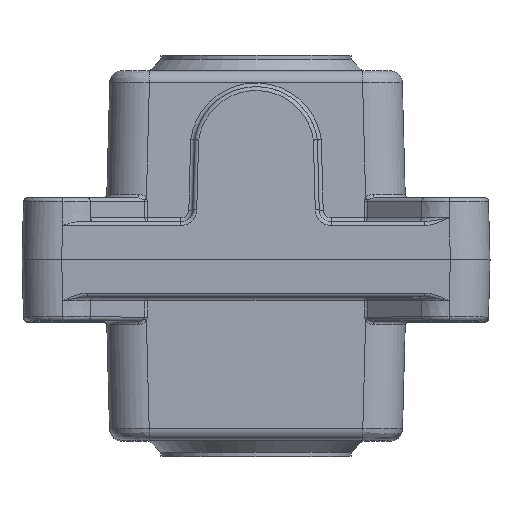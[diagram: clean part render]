
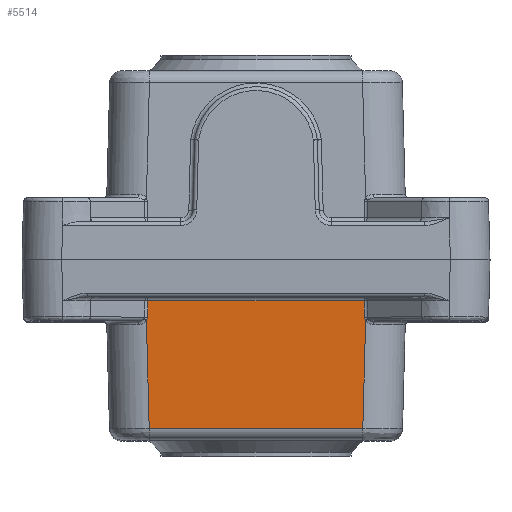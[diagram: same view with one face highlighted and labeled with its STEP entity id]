
A CAD part, top view. The second image highlights one B-rep face of the part: STEP entity #5514.
In plain terms, the highlighted planar face has unit normal (0, -0.026, 1) as drawn and (0, 0.026, 1) by its records, which use the part's own axes.
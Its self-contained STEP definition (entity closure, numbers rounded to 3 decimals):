
#5514=ADVANCED_FACE('',(#22547),#22549,.T.);
#22547=FACE_BOUND('',#22548,.T.);
#22548=EDGE_LOOP('',(#31424,#31425,#31426,#31427,#31428,#31429,#31430,#31431));
#22549=PLANE('',#22550);
#22550=AXIS2_PLACEMENT_3D('',#22551,#22552,#22553);
#22551=CARTESIAN_POINT('',(-27.676,9.5,84.768));
#22552=DIRECTION('',(0.,0.026,1.));
#22553=DIRECTION('',(1.,0.,0.));
#31424=ORIENTED_EDGE('',*,*,#33396,.T.);
#31425=ORIENTED_EDGE('',*,*,#33393,.T.);
#31426=ORIENTED_EDGE('',*,*,#33478,.F.);
#31427=ORIENTED_EDGE('',*,*,#33475,.T.);
#31428=ORIENTED_EDGE('',*,*,#33479,.F.);
#31429=ORIENTED_EDGE('',*,*,#33480,.F.);
#31430=ORIENTED_EDGE('',*,*,#33481,.F.);
#31431=ORIENTED_EDGE('',*,*,#33399,.F.);
#33393=EDGE_CURVE('',#35946,#35948,#35950,.T.);
#33396=EDGE_CURVE('',#35953,#35946,#35954,.T.);
#33399=EDGE_CURVE('',#35953,#35957,#35958,.T.);
#33475=EDGE_CURVE('',#36071,#36069,#36072,.T.);
#33478=EDGE_CURVE('',#36071,#35948,#36075,.T.);
#33479=EDGE_CURVE('',#36076,#36069,#36077,.T.);
#33480=EDGE_CURVE('',#36078,#36076,#36079,.T.);
#33481=EDGE_CURVE('',#35957,#36078,#36080,.T.);
#35946=VERTEX_POINT('',#58673);
#35948=VERTEX_POINT('',#58678);
#35950=LINE('',#58690,#58691);
#35953=VERTEX_POINT('',#58701);
#35954=LINE('',#58702,#58703);
#35957=VERTEX_POINT('',#58713);
#35958=LINE('',#58714,#58715);
#36069=VERTEX_POINT('',#59681);
#36071=VERTEX_POINT('',#59778);
#36072=LINE('',#59779,#59780);
#36075=B_SPLINE_CURVE_WITH_KNOTS('',3,
(#59851,#59852,#59853,#59854,#59855,#59856,#59857,#59858,#59859,#59860,#59861,#59862,
#59863,#59864,#59865,#59866),
.UNSPECIFIED.,.F.,.F.,
(4,2,2,2,2,2,2,4),
(0.,0.144,0.282,0.423,0.569,0.725,
0.902,1.),
.UNSPECIFIED.);
#36076=VERTEX_POINT('',#59867);
#36077=LINE('',#59868,#59869);
#36078=VERTEX_POINT('',#59871);
#36079=LINE('',#59872,#59873);
#36080=B_SPLINE_CURVE_WITH_KNOTS('',3,
(#59875,#59876,#59877,#59878,#59879,#59880,#59881,#59882,#59883,#59884,#59885,#59886,
#59887,#59888,#59889,#59890),
.UNSPECIFIED.,.F.,.F.,
(4,2,2,2,2,2,2,4),
(0.,0.121,0.299,0.479,0.668,0.831,
0.974,1.),
.UNSPECIFIED.);
#58673=CARTESIAN_POINT('',(27.273,10.474,84.743));
#58678=CARTESIAN_POINT('',(27.317,14.526,84.637));
#58690=CARTESIAN_POINT('',(27.273,10.474,84.743));
#58691=VECTOR('',#58692,1.);
#58692=DIRECTION('',(0.011,1.,-0.026));
#58701=CARTESIAN_POINT('',(-27.273,10.474,84.743));
#58702=CARTESIAN_POINT('',(-27.273,10.474,84.743));
#58703=VECTOR('',#58704,1.);
#58704=DIRECTION('',(1.,0.,0.));
#58713=CARTESIAN_POINT('',(-27.317,14.526,84.637));
#58714=CARTESIAN_POINT('',(-27.273,10.474,84.743));
#58715=VECTOR('',#58716,1.);
#58716=DIRECTION('',(-0.011,1.,-0.026));
#59681=CARTESIAN_POINT('',(26.906,42.579,83.902));
#59778=CARTESIAN_POINT('',(27.617,15.404,84.614));
#59779=CARTESIAN_POINT('',(27.617,15.404,84.614));
#59780=VECTOR('',#59781,1.);
#59781=DIRECTION('',(-0.026,0.999,-0.026));
#59851=CARTESIAN_POINT('',(27.617,15.404,84.614));
#59852=CARTESIAN_POINT('',(27.593,15.368,84.615));
#59853=CARTESIAN_POINT('',(27.568,15.333,84.616));
#59854=CARTESIAN_POINT('',(27.524,15.26,84.617));
#59855=CARTESIAN_POINT('',(27.503,15.224,84.618));
#59856=CARTESIAN_POINT('',(27.464,15.148,84.62));
#59857=CARTESIAN_POINT('',(27.446,15.109,84.621));
#59858=CARTESIAN_POINT('',(27.412,15.026,84.624));
#59859=CARTESIAN_POINT('',(27.396,14.982,84.625));
#59860=CARTESIAN_POINT('',(27.367,14.891,84.627));
#59861=CARTESIAN_POINT('',(27.355,14.842,84.628));
#59862=CARTESIAN_POINT('',(27.334,14.736,84.631));
#59863=CARTESIAN_POINT('',(27.325,14.68,84.633));
#59864=CARTESIAN_POINT('',(27.318,14.59,84.635));
#59865=CARTESIAN_POINT('',(27.318,14.558,84.636));
#59866=CARTESIAN_POINT('',(27.317,14.526,84.637));
#59867=CARTESIAN_POINT('',(-26.906,42.579,83.902));
#59868=CARTESIAN_POINT('',(-26.906,42.579,83.902));
#59869=VECTOR('',#59870,1.);
#59870=DIRECTION('',(1.,0.,0.));
#59871=CARTESIAN_POINT('',(-27.617,15.404,84.614));
#59872=CARTESIAN_POINT('',(-27.617,15.404,84.614));
#59873=VECTOR('',#59874,1.);
#59874=DIRECTION('',(0.026,0.999,-0.026));
#59875=CARTESIAN_POINT('',(-27.317,14.526,84.637));
#59876=CARTESIAN_POINT('',(-27.318,14.566,84.636));
#59877=CARTESIAN_POINT('',(-27.319,14.605,84.635));
#59878=CARTESIAN_POINT('',(-27.328,14.702,84.632));
#59879=CARTESIAN_POINT('',(-27.337,14.759,84.631));
#59880=CARTESIAN_POINT('',(-27.362,14.871,84.628));
#59881=CARTESIAN_POINT('',(-27.378,14.927,84.626));
#59882=CARTESIAN_POINT('',(-27.415,15.037,84.623));
#59883=CARTESIAN_POINT('',(-27.438,15.092,84.622));
#59884=CARTESIAN_POINT('',(-27.485,15.19,84.619));
#59885=CARTESIAN_POINT('',(-27.509,15.235,84.618));
#59886=CARTESIAN_POINT('',(-27.556,15.314,84.616));
#59887=CARTESIAN_POINT('',(-27.58,15.35,84.615));
#59888=CARTESIAN_POINT('',(-27.608,15.391,84.614));
#59889=CARTESIAN_POINT('',(-27.613,15.398,84.614));
#59890=CARTESIAN_POINT('',(-27.617,15.404,84.614));
